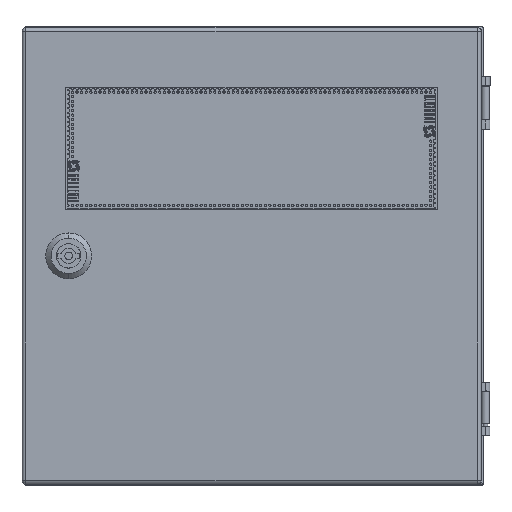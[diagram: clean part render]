
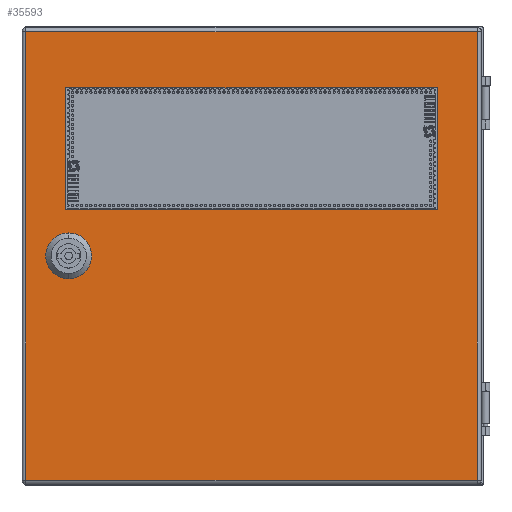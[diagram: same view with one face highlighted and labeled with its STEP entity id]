
A CAD part, top view. The second image highlights one B-rep face of the part: STEP entity #35593.
In plain terms, the highlighted planar face has unit normal (0, 0, 1).
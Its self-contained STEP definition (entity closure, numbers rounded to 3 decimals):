
#668 = VERTEX_POINT ( 'NONE', #10569 ) ;
#696 = VERTEX_POINT ( 'NONE', #10584 ) ;
#779 = VERTEX_POINT ( 'NONE', #10630 ) ;
#879 = VERTEX_POINT ( 'NONE', #10682 ) ;
#883 = VERTEX_POINT ( 'NONE', #10684 ) ;
#985 = VERTEX_POINT ( 'NONE', #10735 ) ;
#993 = VERTEX_POINT ( 'NONE', #10739 ) ;
#1012 = VERTEX_POINT ( 'NONE', #10749 ) ;
#1057 = VERTEX_POINT ( 'NONE', #10772 ) ;
#1227 = VERTEX_POINT ( 'NONE', #10856 ) ;
#1240 = VERTEX_POINT ( 'NONE', #10862 ) ;
#1328 = VERTEX_POINT ( 'NONE', #10906 ) ;
#1332 = VERTEX_POINT ( 'NONE', #10908 ) ;
#1582 = VERTEX_POINT ( 'NONE', #11033 ) ;
#1625 = VERTEX_POINT ( 'NONE', #11054 ) ;
#1713 = VERTEX_POINT ( 'NONE', #11098 ) ;
#1857 = EDGE_LOOP ( 'NONE', ( #38531, #38529, #38530, #38528, #38527, #38526, #38525, #38524 ) ) ;
#9184 = EDGE_LOOP ( 'NONE', ( #38535, #38533, #38534, #38532 ) ) ;
#9647 = EDGE_LOOP ( 'NONE', ( #38523, #38521, #38522, #38520 ) ) ;
#10569 = CARTESIAN_POINT ( 'NONE',  ( -124.999, 10.1, 14. ) ) ;
#10584 = CARTESIAN_POINT ( 'NONE',  ( 121.5, 110., 14. ) ) ;
#10630 = CARTESIAN_POINT ( 'NONE',  ( -121.5, 30., 14. ) ) ;
#10682 = CARTESIAN_POINT ( 'NONE',  ( -147.6, 146.6, 14. ) ) ;
#10684 = CARTESIAN_POINT ( 'NONE',  ( 121.5, 30., 14. ) ) ;
#10735 = CARTESIAN_POINT ( 'NONE',  ( -109.4, -5.499, 14. ) ) ;
#10739 = CARTESIAN_POINT ( 'NONE',  ( 147.6, 146.6, 14. ) ) ;
#10749 = CARTESIAN_POINT ( 'NONE',  ( -129.6, -5.499, 14. ) ) ;
#10772 = CARTESIAN_POINT ( 'NONE',  ( -109.4, 5.499, 14. ) ) ;
#10856 = CARTESIAN_POINT ( 'NONE',  ( 147.6, -146.6, 14. ) ) ;
#10862 = CARTESIAN_POINT ( 'NONE',  ( -129.6, 5.499, 14. ) ) ;
#10906 = CARTESIAN_POINT ( 'NONE',  ( -114.001, -10.1, 14. ) ) ;
#10908 = CARTESIAN_POINT ( 'NONE',  ( -114.001, 10.1, 14. ) ) ;
#11033 = CARTESIAN_POINT ( 'NONE',  ( -124.999, -10.1, 14. ) ) ;
#11054 = CARTESIAN_POINT ( 'NONE',  ( -121.5, 110., 14. ) ) ;
#11098 = CARTESIAN_POINT ( 'NONE',  ( -147.6, -146.6, 14. ) ) ;
#12424 = EDGE_CURVE ( 'NONE', #993, #879, #43613, .T. ) ;
#12427 = EDGE_CURVE ( 'NONE', #1227, #993, #43622, .T. ) ;
#12428 = EDGE_CURVE ( 'NONE', #879, #1713, #43625, .T. ) ;
#12429 = EDGE_CURVE ( 'NONE', #1012, #1240, #43628, .T. ) ;
#12430 = EDGE_CURVE ( 'NONE', #1713, #1227, #43631, .T. ) ;
#12431 = EDGE_CURVE ( 'NONE', #985, #1328, #50648, .T. ) ;
#12432 = EDGE_CURVE ( 'NONE', #1328, #1582, #43637, .T. ) ;
#12433 = EDGE_CURVE ( 'NONE', #1582, #1012, #50650, .T. ) ;
#12434 = EDGE_CURVE ( 'NONE', #1057, #985, #43643, .T. ) ;
#12435 = EDGE_CURVE ( 'NONE', #1332, #1057, #50652, .T. ) ;
#12436 = EDGE_CURVE ( 'NONE', #1240, #668, #50655, .T. ) ;
#12437 = EDGE_CURVE ( 'NONE', #696, #1625, #43652, .T. ) ;
#12438 = EDGE_CURVE ( 'NONE', #668, #1332, #43655, .T. ) ;
#12439 = EDGE_CURVE ( 'NONE', #1625, #779, #43658, .T. ) ;
#12440 = EDGE_CURVE ( 'NONE', #883, #696, #43661, .T. ) ;
#12443 = EDGE_CURVE ( 'NONE', #779, #883, #43670, .T. ) ;
#15041 = AXIS2_PLACEMENT_3D ( 'NONE', #59111, #59112, #59113 ) ;
#15054 = FACE_OUTER_BOUND ( 'NONE', #9647, .T. ) ;
#15063 = FACE_BOUND ( 'NONE', #1857, .T. ) ;
#15097 = FACE_BOUND ( 'NONE', #9184, .T. ) ;
#35593 = ADVANCED_FACE ( 'NONE', ( #15097, #15063, #15054 ), #59110, .T. ) ;
#38520 = ORIENTED_EDGE ( 'NONE', *, *, #12424, .T. ) ;
#38521 = ORIENTED_EDGE ( 'NONE', *, *, #12430, .T. ) ;
#38522 = ORIENTED_EDGE ( 'NONE', *, *, #12427, .T. ) ;
#38523 = ORIENTED_EDGE ( 'NONE', *, *, #12428, .T. ) ;
#38524 = ORIENTED_EDGE ( 'NONE', *, *, #12429, .T. ) ;
#38525 = ORIENTED_EDGE ( 'NONE', *, *, #12433, .T. ) ;
#38526 = ORIENTED_EDGE ( 'NONE', *, *, #12432, .T. ) ;
#38527 = ORIENTED_EDGE ( 'NONE', *, *, #12431, .T. ) ;
#38528 = ORIENTED_EDGE ( 'NONE', *, *, #12434, .T. ) ;
#38529 = ORIENTED_EDGE ( 'NONE', *, *, #12438, .T. ) ;
#38530 = ORIENTED_EDGE ( 'NONE', *, *, #12435, .T. ) ;
#38531 = ORIENTED_EDGE ( 'NONE', *, *, #12436, .T. ) ;
#38532 = ORIENTED_EDGE ( 'NONE', *, *, #12437, .F. ) ;
#38533 = ORIENTED_EDGE ( 'NONE', *, *, #12443, .F. ) ;
#38534 = ORIENTED_EDGE ( 'NONE', *, *, #12439, .F. ) ;
#38535 = ORIENTED_EDGE ( 'NONE', *, *, #12440, .F. ) ;
#43609 = CARTESIAN_POINT ( 'NONE',  ( -119.5, 0., 14. ) ) ;
#43613 = LINE ( 'NONE', #43614, #47610 ) ;
#43614 = CARTESIAN_POINT ( 'NONE',  ( -150., 146.6, 14. ) ) ;
#43615 = DIRECTION ( 'NONE',  ( -1., 0., 0. ) ) ;
#43622 = LINE ( 'NONE', #43623, #47613 ) ;
#43623 = CARTESIAN_POINT ( 'NONE',  ( 147.6, 149., 14. ) ) ;
#43624 = DIRECTION ( 'NONE',  ( 0., 1., 0. ) ) ;
#43625 = LINE ( 'NONE', #43626, #47614 ) ;
#43626 = CARTESIAN_POINT ( 'NONE',  ( -147.6, -149., 14. ) ) ;
#43627 = DIRECTION ( 'NONE',  ( 0., -1., 0. ) ) ;
#43628 = LINE ( 'NONE', #43629, #47616 ) ;
#43629 = CARTESIAN_POINT ( 'NONE',  ( -129.6, 5.499, 14. ) ) ;
#43630 = DIRECTION ( 'NONE',  ( 0., 1., 0. ) ) ;
#43631 = LINE ( 'NONE', #43632, #47618 ) ;
#43632 = CARTESIAN_POINT ( 'NONE',  ( 150., -146.6, 14. ) ) ;
#43633 = DIRECTION ( 'NONE',  ( 1., 0., 0. ) ) ;
#43634 = DIRECTION ( 'NONE',  ( 0., 0., -1. ) ) ;
#43635 = DIRECTION ( 'NONE',  ( 1., 0., 0. ) ) ;
#43636 = CARTESIAN_POINT ( 'NONE',  ( -119.5, 0., 14. ) ) ;
#43637 = LINE ( 'NONE', #43638, #47619 ) ;
#43638 = CARTESIAN_POINT ( 'NONE',  ( -124.999, -10.1, 14. ) ) ;
#43639 = DIRECTION ( 'NONE',  ( -1., 0., 0. ) ) ;
#43640 = DIRECTION ( 'NONE',  ( 0., 0., -1. ) ) ;
#43641 = DIRECTION ( 'NONE',  ( -1., 0., 0. ) ) ;
#43642 = CARTESIAN_POINT ( 'NONE',  ( -119.5, 0., 14. ) ) ;
#43643 = LINE ( 'NONE', #43644, #47620 ) ;
#43644 = CARTESIAN_POINT ( 'NONE',  ( -109.4, 5.499, 14. ) ) ;
#43645 = DIRECTION ( 'NONE',  ( 0., -1., 0. ) ) ;
#43646 = DIRECTION ( 'NONE',  ( 0., 0., -1. ) ) ;
#43647 = DIRECTION ( 'NONE',  ( -1., 0., 0. ) ) ;
#43648 = CARTESIAN_POINT ( 'NONE',  ( -119.5, 0., 14. ) ) ;
#43649 = DIRECTION ( 'NONE',  ( 0., 0., -1. ) ) ;
#43650 = DIRECTION ( 'NONE',  ( 1., 0., 0. ) ) ;
#43652 = LINE ( 'NONE', #43653, #47621 ) ;
#43653 = CARTESIAN_POINT ( 'NONE',  ( -121.5, 110., 14. ) ) ;
#43654 = DIRECTION ( 'NONE',  ( -1., 0., 0. ) ) ;
#43655 = LINE ( 'NONE', #43656, #47622 ) ;
#43656 = CARTESIAN_POINT ( 'NONE',  ( -124.999, 10.1, 14. ) ) ;
#43657 = DIRECTION ( 'NONE',  ( 1., 0., 0. ) ) ;
#43658 = LINE ( 'NONE', #43659, #47623 ) ;
#43659 = CARTESIAN_POINT ( 'NONE',  ( -121.5, 30., 14. ) ) ;
#43660 = DIRECTION ( 'NONE',  ( 0., -1., 0. ) ) ;
#43661 = LINE ( 'NONE', #43662, #47624 ) ;
#43662 = CARTESIAN_POINT ( 'NONE',  ( 121.5, 30., 14. ) ) ;
#43663 = DIRECTION ( 'NONE',  ( 0., 1., 0. ) ) ;
#43670 = LINE ( 'NONE', #43671, #47627 ) ;
#43671 = CARTESIAN_POINT ( 'NONE',  ( -121.5, 30., 14. ) ) ;
#43672 = DIRECTION ( 'NONE',  ( 1., 0., 0. ) ) ;
#47610 = VECTOR ( 'NONE', #43615, 1000. ) ;
#47613 = VECTOR ( 'NONE', #43624, 1000. ) ;
#47614 = VECTOR ( 'NONE', #43627, 1000. ) ;
#47615 = AXIS2_PLACEMENT_3D ( 'NONE', #43609, #43634, #43635 ) ;
#47616 = VECTOR ( 'NONE', #43630, 1000. ) ;
#47617 = AXIS2_PLACEMENT_3D ( 'NONE', #43648, #43649, #43650 ) ;
#47618 = VECTOR ( 'NONE', #43633, 1000. ) ;
#47619 = VECTOR ( 'NONE', #43639, 1000. ) ;
#47620 = VECTOR ( 'NONE', #43645, 1000. ) ;
#47621 = VECTOR ( 'NONE', #43654, 1000. ) ;
#47622 = VECTOR ( 'NONE', #43657, 1000. ) ;
#47623 = VECTOR ( 'NONE', #43660, 1000. ) ;
#47624 = VECTOR ( 'NONE', #43663, 1000. ) ;
#47627 = VECTOR ( 'NONE', #43672, 1000. ) ;
#47631 = AXIS2_PLACEMENT_3D ( 'NONE', #43642, #43646, #43647 ) ;
#47703 = AXIS2_PLACEMENT_3D ( 'NONE', #43636, #43640, #43641 ) ;
#50648 = CIRCLE ( 'NONE', #47615, 11.5 ) ;
#50650 = CIRCLE ( 'NONE', #47703, 11.5 ) ;
#50652 = CIRCLE ( 'NONE', #47631, 11.5 ) ;
#50655 = CIRCLE ( 'NONE', #47617, 11.5 ) ;
#59110 = PLANE ( 'NONE',  #15041 ) ;
#59111 = CARTESIAN_POINT ( 'NONE',  ( 0., 0., 14. ) ) ;
#59112 = DIRECTION ( 'NONE',  ( 0., 0., 1. ) ) ;
#59113 = DIRECTION ( 'NONE',  ( 1., 0., 0. ) ) ;
